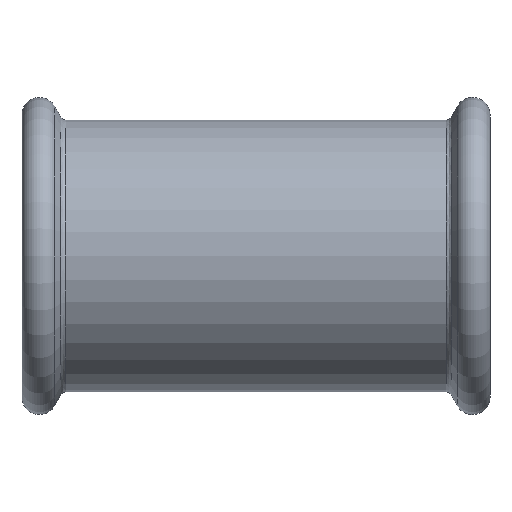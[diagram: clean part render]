
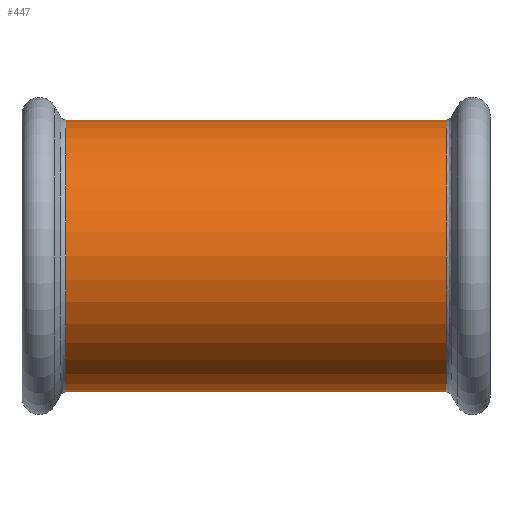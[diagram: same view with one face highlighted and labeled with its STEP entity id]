
A CAD part, front view. The second image highlights one B-rep face of the part: STEP entity #447.
In plain terms, the highlighted cylindrical face has radius 46.75 mm (diameter 93.5 mm), a full revolution.
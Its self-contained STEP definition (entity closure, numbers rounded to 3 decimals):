
#405=CARTESIAN_POINT('',(65.378,46.75,0.0));
#406=VERTEX_POINT('',#405);
#407=CARTESIAN_POINT('',(65.378,0.0,0.0));
#408=DIRECTION('',(1.0,0.0,0.0));
#409=DIRECTION('',(0.0,-1.0,0.0));
#410=AXIS2_PLACEMENT_3D('',#407,#408,#409);
#411=CIRCLE('',#410,46.75);
#412=EDGE_CURVE('',#406,#406,#411,.T.);
#428=CARTESIAN_POINT('',(0.0,0.0,0.0));
#429=DIRECTION('',(1.0,0.0,0.0));
#430=DIRECTION('',(0.0,1.0,0.0));
#431=AXIS2_PLACEMENT_3D('',#428,#429,#430);
#432=CYLINDRICAL_SURFACE('',#431,46.75);
#433=CARTESIAN_POINT('',(-65.378,46.75,0.));
#434=VERTEX_POINT('',#433);
#435=CARTESIAN_POINT('',(-65.378,0.0,0.0));
#436=DIRECTION('',(-1.0,0.0,0.0));
#437=DIRECTION('',(0.0,-1.0,0.0));
#438=AXIS2_PLACEMENT_3D('',#435,#436,#437);
#439=CIRCLE('',#438,46.75);
#440=EDGE_CURVE('',#434,#434,#439,.T.);
#441=ORIENTED_EDGE('',*,*,#440,.F.);
#442=EDGE_LOOP('',(#441));
#443=FACE_OUTER_BOUND('',#442,.T.);
#444=ORIENTED_EDGE('',*,*,#412,.F.);
#445=EDGE_LOOP('',(#444));
#446=FACE_BOUND('',#445,.T.);
#447=ADVANCED_FACE('',(#443,#446),#432,.T.);
